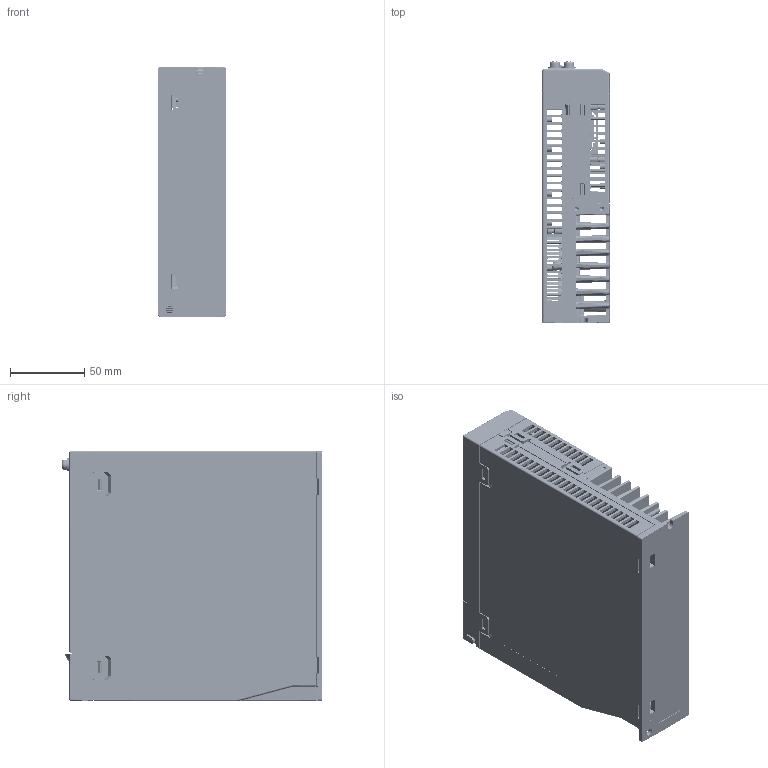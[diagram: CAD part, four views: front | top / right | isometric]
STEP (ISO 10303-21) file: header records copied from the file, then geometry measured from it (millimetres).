
FILE_DESCRIPTION((''),'2;1');
FILE_NAME('SD700S07R0G0-00000_ASM','2018-08-07T',('V0214'),(''),'CREO PARAMETRIC BY PTC INC, 2016260','CREO PARAMETRIC BY PTC INC, 2016260','');
FILE_SCHEMA(('AP203_CONFIGURATION_CONTROLLED_3D_DESIGN_OF_MECHANICAL_PARTS_AND_ASSEMBLIES_MIM_LF { 1 0 10303 403 2 1 2 }'));
Products named in the file (24): SD700S07R0G0-H0001; 1394-6P-NEW; CONNECTER_50PIN; RJ45; MINI-USB; ELT-IDC-30P-2_54_ASM; SD700CONTROL-A1_0_ASM; 3P-A; 9P-A; SD700S2M3R3F-A1_0_ASM; SD700S07R0G0-A0000_ASM; SD700S07R0G0-P0001; SD700S07R0G0-P0002; SD700S07R0G0-P0003; SD700S07R0G0-P0004; LGT3D0-10; SD700S07R0G0-P0005_ASM; SD700S07R0G0-P0000_ASM; M3X8_GB9074_8; M3X10_GB9074_8; M3X6_GB9074_8; M4X10_GB9074_8; SD700S07R0G0-D000S_ASM; SD700S07R0G0-00000_ASM
Assembly tree (31 placements, depth 4):
  SD700S07R0G0-00000_ASM
    SD700S07R0G0-H0001
    SD700S07R0G0-A0000_ASM
      SD700CONTROL-A1_0_ASM
        1394-6P-NEW
        CONNECTER_50PIN
        RJ45
        MINI-USB
        ELT-IDC-30P-2_54_ASM
      SD700S2M3R3F-A1_0_ASM
        3P-A
        9P-A
    SD700S07R0G0-P0000_ASM
      SD700S07R0G0-P0001
      SD700S07R0G0-P0002
      SD700S07R0G0-P0005_ASM
        SD700S07R0G0-P0003
        SD700S07R0G0-P0004
        LGT3D0-10
    SD700S07R0G0-D000S_ASM
      M3X8_GB9074_8  x5
      M3X10_GB9074_8  x4
      M3X6_GB9074_8
      M4X10_GB9074_8  x2
Bounding box: 45 x 175.19 x 168 mm (x, y, z)
Volume: 286979.9 mm3; surface area: 247026.4 mm2
Topology: 24 solids, 31 shells, 8176 faces, 71691 edges, 64300 vertices
Faces by surface type: plane 4111, cylinder 2125, bspline 973, extrusion 404, cone 255, torus 187, sphere 121
Entity records: 832299 total; most frequent: CARTESIAN_POINT 166330, DIRECTION 82893, PRESENTATION_STYLE_ASSIGNMENT 72477, STYLED_ITEM 71312, CURVE_STYLE 71285, VECTOR 62503, LINE 62099, COMPOSITE_CURVE_SEGMENT 49347
